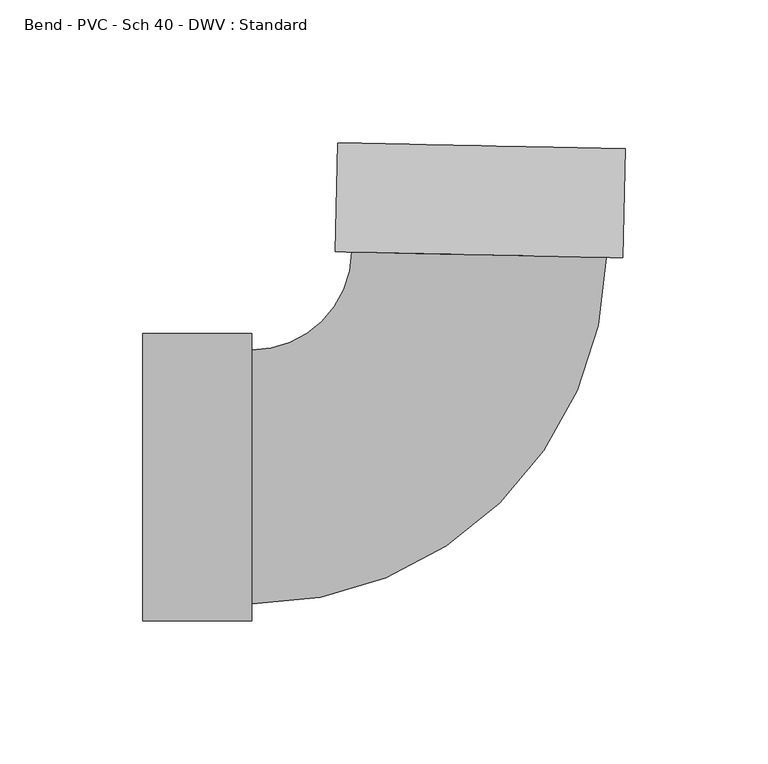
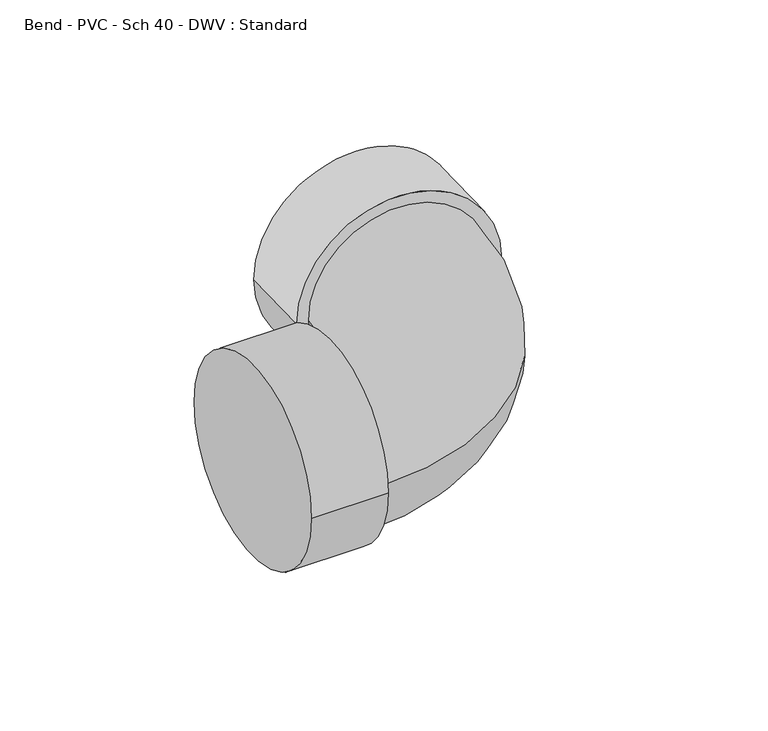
"""IFC4 building model written with IfcOpenShell, lengths in millimetres: pipe fitting geometry, Bend - PVC - Sch 40 - DWV : Standard."""

from ifc_helpers import new_model, si_unit, point, frame, origin, place, context, project, spatial, circle_curve, ellipse_curve, trimmed, source, transform, mapped, element, save
from ifc_brep_helpers import plane_surface, cylinder_surface, revolved_surface, advanced_brep


def bend_pvc_sch_40_dwv_standard_db232f92(model_context):
    return source(origin(), model_context, "Body", "AdvancedBrep", [
        advanced_brep(
        [(-115.9002, -50.2666, 0.0), (-115.9002, 50.2666, 0.0), (-77.8002, -50.2666, 0.0), (-77.8002, 50.2666, 0.0), (-77.8002, -44.45, 0.0), (-77.8002, 44.45, 0.0), (-42.819871, 78.7091625, 0.0), (46.0608427, 76.857481, 0.0), (51.8761809, 76.7363281, 0.0), (-48.6352091, 78.8303154, 0.0), (52.6697587, 114.8280626, 0.0), (-47.8416313, 116.9220499, 0.0)],
        [
            (0, 1, circle_curve(frame((-115.9002, 0.0, 0.0), z_axis=(-1.0, 0.0, 0.0), x_axis=(0.0, 1.0, 0.0)), 50.2666)),
            (1, 0, circle_curve(frame((-115.9002, 0.0, 0.0), z_axis=(-1.0, 0.0, 0.0), x_axis=(0.0, 1.0, 0.0)), 50.2666)),
            (2, 3, circle_curve(frame((-77.8002, 0.0, 0.0), z_axis=(1.0, 0.0, 0.0), x_axis=(0.0, 1.0, 0.0)), 50.2666)),
            (3, 2, circle_curve(frame((-77.8002, 0.0, 0.0), z_axis=(1.0, 0.0, 0.0), x_axis=(0.0, 1.0, 0.0)), 50.2666)),
            (4, 5, circle_curve(frame((-77.8002, 0.0, 0.0), z_axis=(-1.0, 0.0, 0.0), x_axis=(0.0, 1.0, 0.0)), 44.45)),
            (5, 4, circle_curve(frame((-77.8002, 0.0, 0.0), z_axis=(-1.0, 0.0, 0.0), x_axis=(0.0, 1.0, 0.0)), 44.45)),
            (0, 2),
            (3, 1),
            (6, 5, circle_curve(frame((-77.8002, 79.4379194, 0.0), z_axis=(0.0, 0.0, -1.0), x_axis=(0.0, -1.0, 0.0)), 34.9879194)),
            (4, 7, circle_curve(frame((-77.8002, 79.4379194, 0.0), z_axis=(0.0, 0.0, 1.0), x_axis=(0.0, -1.0, 0.0)), 123.8879194)),
            (7, 6, circle_curve(frame((1.6204859, 77.7833218, 0.0), z_axis=(-0.0208288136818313, -0.9997830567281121, 0.0), x_axis=(-0.9997830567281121, 0.0208288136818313, 0.0)), 44.45)),
            (6, 7, circle_curve(frame((1.6204859, 77.7833218, 0.0), z_axis=(-0.0208288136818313, -0.9997830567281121, 0.0), x_axis=(-0.9997830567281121, 0.0208288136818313, 0.0)), 44.45)),
            (8, 9, circle_curve(frame((1.6204859, 77.7833218, 0.0), z_axis=(-0.02082881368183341, -0.9997830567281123, 0.0), x_axis=(-0.9997830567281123, 0.02082881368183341, 0.0)), 50.2666)),
            (9, 8, circle_curve(frame((1.6204859, 77.7833218, 0.0), z_axis=(-0.02082881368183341, -0.9997830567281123, 0.0), x_axis=(-0.9997830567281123, 0.02082881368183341, 0.0)), 50.2666)),
            (10, 11, circle_curve(frame((2.4140637, 115.8750562, 0.0), z_axis=(0.02082881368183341, 0.9997830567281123, 0.0), x_axis=(-0.9997830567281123, 0.02082881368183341, 0.0)), 50.2666)),
            (11, 10, circle_curve(frame((2.4140637, 115.8750562, 0.0), z_axis=(0.02082881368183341, 0.9997830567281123, 0.0), x_axis=(-0.9997830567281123, 0.02082881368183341, 0.0)), 50.2666)),
            (8, 10),
            (11, 9),
        ],
        [
            plane_surface(frame((-115.9002, 0.0, 0.0), z_axis=(-1.0, 0.0, 0.0), x_axis=(0.0, 0.0, 1.0))),
            plane_surface(frame((-77.8002, 0.0, 0.0), z_axis=(1.0, 0.0, 0.0), x_axis=(0.0, 0.0, 1.0))),
            cylinder_surface(frame((-115.9002, 0.0, 0.0), z_axis=(-1.0, 0.0, 0.0), x_axis=(0.0, 1.0, 0.0)), 50.2666),
            revolved_surface(trimmed(ellipse_curve(frame((-77.8002, 0.0, 0.0), z_axis=(-1.0, 0.0, 0.0), x_axis=(0.0, 1.0, 0.0)), 44.45, 44.45), [point((-77.8002, -44.45, 0.0))], [point((-77.8002, 44.45, 0.0))], True, "CARTESIAN"), (-77.8002, 79.4379194, 0.0), (0.0, 0.0, 1.0)),
            revolved_surface(trimmed(ellipse_curve(frame((-77.8002, 0.0, 0.0), z_axis=(-1.0, 0.0, 0.0), x_axis=(0.0, 1.0, 0.0)), 44.45, 44.45), [point((-77.8002, 44.45, 0.0))], [point((-77.8002, -44.45, 0.0))], True, "CARTESIAN"), (-77.8002, 79.4379194, 0.0), (0.0, 0.0, 1.0)),
            plane_surface(frame((1.6204859, 77.7833218, 0.0), z_axis=(-0.02082881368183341, -0.9997830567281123, 0.0), x_axis=(0.0, 0.0, 1.0))),
            plane_surface(frame((2.4140637, 115.8750562, 0.0), z_axis=(0.02082881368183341, 0.9997830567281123, 0.0), x_axis=(0.0, 0.0, 1.0))),
            cylinder_surface(frame((1.6204859, 77.7833218, 0.0), z_axis=(-0.02082881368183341, -0.9997830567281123, 0.0), x_axis=(-0.9997830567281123, 0.02082881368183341, 0.0)), 50.2666),
        ],
        [
            (0, [[1, 2]]),
            (1, [[3, 4], [5, 6]]),
            (2, [[-1, 7, -4, 8]]),
            (2, [[-2, -8, -3, -7]]),
            (3, [[9, -5, 10, 11]]),
            (4, [[-9, 12, -10, -6]]),
            (5, [[13, 14], [-11, -12]]),
            (6, [[15, 16]]),
            (7, [[-13, 17, -16, 18]]),
            (7, [[-14, -18, -15, -17]]),
        ],
    ),
    ])


if __name__ == "__main__":
    model = new_model("IFC4")
    model_context = context("Model", 3, world=origin())
    ifc_project = project(units=[si_unit("LENGTHUNIT", "METRE", prefix="MILLI")], contexts=[model_context])
    site = spatial("IfcSite", under=ifc_project)
    building = spatial("IfcBuilding", under=site)
    placement = place(None, origin())
    bend_pvc_sch_40_dwv_standard_shape = bend_pvc_sch_40_dwv_standard_db232f92(model_context)
    element("IfcPipeFitting", 1, ObjectType="Bend - PVC - Sch 40 - DWV : Standard", at=placement, inside=building, context=model_context, shape_type="MappedRepresentation", body=[
        mapped(bend_pvc_sch_40_dwv_standard_shape, transform((0.0, 0.0, 0.0), x_axis=(1.0, 0.0, 0.0), y_axis=(0.0, 1.0, 0.0), z_axis=(0.0, 0.0, 1.0))),
    ])
    save(model, "model.ifc")
